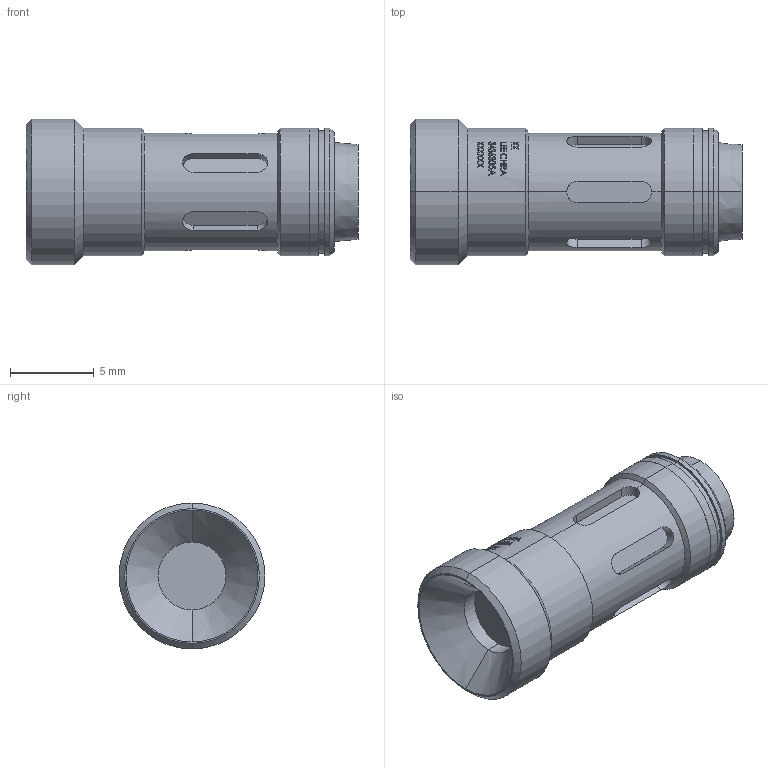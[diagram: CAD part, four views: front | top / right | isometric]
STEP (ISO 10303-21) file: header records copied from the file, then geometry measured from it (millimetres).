
FILE_DESCRIPTION (( 'STEP AP214' ), '1' );
FILE_NAME ('3DCHRA3436305A.STEP', '2021-03-30T13:58:21', ( '' ), ( '' ), 'SwSTEP 2.0', 'SolidWorks 2019', '' );
FILE_SCHEMA (( 'AUTOMOTIVE_DESIGN' ));
Length unit declared in the file: inch
Products named in the file (1): 3DCHRA3436305A
Bounding box: 19.81 x 8.71 x 8.71 mm (x, y, z)
Volume: 773 mm3; surface area: 644.2 mm2
Topology: 1 solids, 1 shells, 384 faces, 1012 edges, 668 vertices
Faces by surface type: bspline 170, plane 141, cylinder 59, cone 14
Entity records: 18141 total; most frequent: CARTESIAN_POINT 6029, ORIENTED_EDGE 2024, DIRECTION 1080, EDGE_CURVE 1012, VERTEX_POINT 668, B_SPLINE_CURVE_WITH_KNOTS 584, AXIS2_PLACEMENT_3D 437, EDGE_LOOP 422
